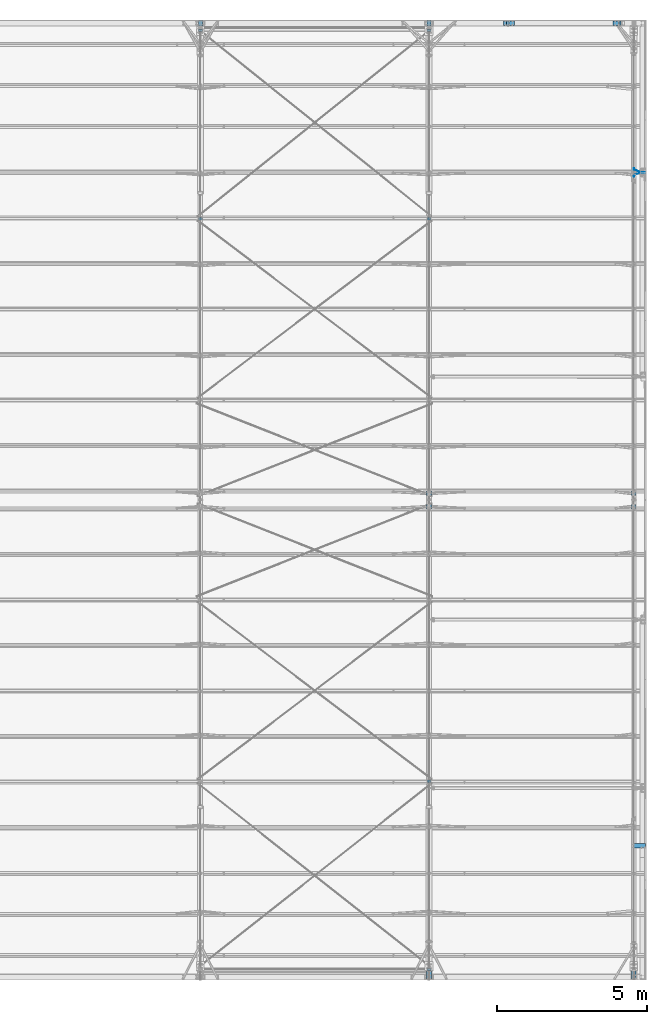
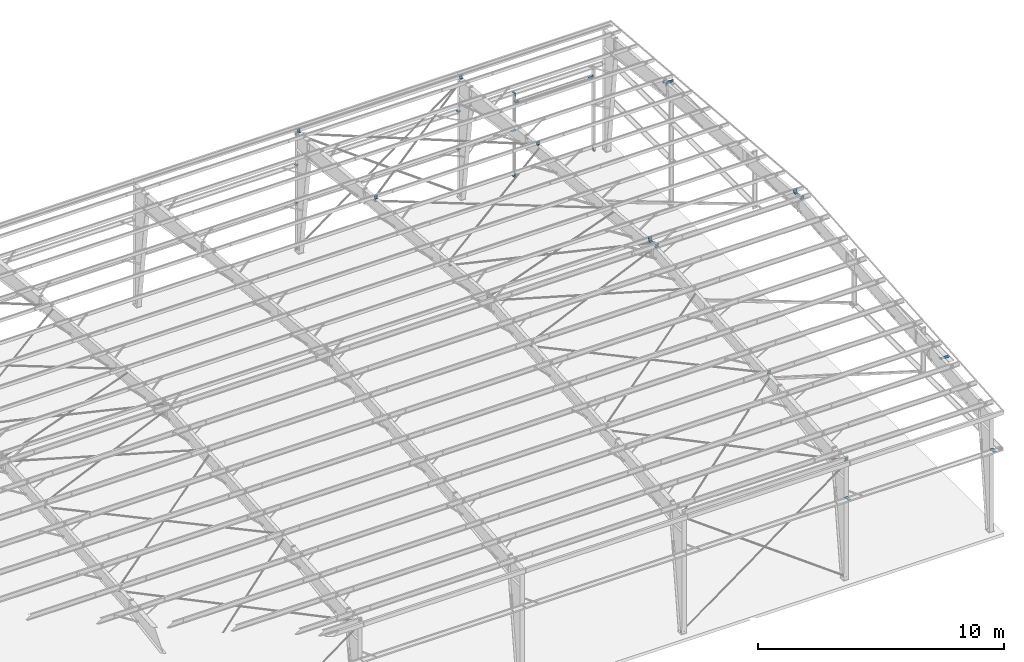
# One storey, part 184 of 185: 25 beams, 25 elements without a shape of their own.
"""IFC2X3 building model written with IfcOpenShell, lengths in millimetres."""

from ifc_helpers import new_model, si_unit, frame, origin_with_axes, place, context, subcontext, project, spatial, faceted_brep, material, type_object, element, aggregate, save


model = new_model("IFC2X3")

# Units and contexts
model_context = context("Model", 3, precision=1e-05, world=origin_with_axes())
body_context = subcontext(model_context, "Body", "Model", "MODEL_VIEW")
ifc_project = project(units=[si_unit("LENGTHUNIT", "METRE", prefix="MILLI"), si_unit("AREAUNIT", "SQUARE_METRE"), si_unit("VOLUMEUNIT", "CUBIC_METRE"), si_unit("MASSUNIT", "GRAM", prefix="KILO"), si_unit("TIMEUNIT", "SECOND"), si_unit("PLANEANGLEUNIT", "RADIAN"), si_unit("SOLIDANGLEUNIT", "STERADIAN"), si_unit("THERMODYNAMICTEMPERATUREUNIT", "DEGREE_CELSIUS"), si_unit("LUMINOUSINTENSITYUNIT", "LUMEN")], contexts=[model_context])

# Site, building, storey
site_placement = place(None, origin_with_axes())
site = spatial("IfcSite", under=ifc_project, at=site_placement, Name="Undefined", CompositionType="ELEMENT")
building_placement = place(site_placement, origin_with_axes())
building = spatial("IfcBuilding", under=site, at=building_placement, Name="Undefined", CompositionType="ELEMENT")
storey_placement = place(building_placement, origin_with_axes())
storey = spatial("IfcBuildingStorey", under=building, at=storey_placement, Name="Undefined", CompositionType="ELEMENT", Elevation=0.0)

# Assembly, beam
assembly_1_placement = place(storey_placement, origin_with_axes())
assembly_1 = element("IfcElementAssembly", 1, at=assembly_1_placement, inside=storey, Name="Steel Assembly", AssemblyPlace="NOTDEFINED", PredefinedType="RIGID_FRAME")
ifc_material = material(Name="STEEL/55")
beam_type_1 = type_object("IfcBeamType", Name="FL1/4\"X5\"", PredefinedType="NOTDEFINED")
beam_1_placement = place(assembly_1_placement, frame((44946.0937, 26918.918412, 6175.51738349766), z_axis=(0.0, 0.0, 1.0), x_axis=(-1.0, 0.0, 0.0)))
beam_1 = element("IfcBeam", 2, at=beam_1_placement, type_object=beam_type_1, material=ifc_material, Name="Special Clip", ObjectType="FL1/4\"X5\"", context=body_context, shape_type="Brep", body=[
    faceted_brep([(0.0, -3.17499999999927, -63.5), (0.0, -3.17499999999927, 63.5), (0.0, 3.17499999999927, 63.5), (0.0, 3.17499999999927, -63.5), (162.336267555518, 3.17499999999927, 63.5), (162.336267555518, 3.17499999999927, -63.5), (163.512496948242, -3.17499999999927, -63.5), (163.512496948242, -3.17499999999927, 63.5), (385.793432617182, 88.899589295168, 63.5), (385.793432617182, 88.899589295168, -63.5), (392.143432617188, 84.5343963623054, -63.5), (392.143432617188, 84.5343963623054, 63.5), (385.793432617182, 138.112506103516, 63.5), (385.793432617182, 138.112506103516, -63.5), (392.143432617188, 138.112506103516, 63.5), (392.143432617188, 138.112506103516, -63.5)], [[[0, 1, 2, 3]], [[3, 2, 4, 5]], [[1, 0, 6, 7]], [[5, 4, 8, 9]], [[7, 6, 10, 11]], [[9, 8, 12, 13]], [[8, 4, 2, 1, 7, 11, 14, 12]], [[11, 10, 15, 14]], [[10, 6, 0, 3, 5, 9, 13, 15]], [[14, 15, 13, 12]]]),
])
aggregate(assembly_1, [beam_1])

assembly_2_placement = place(storey_placement, origin_with_axes())
assembly_2 = element("IfcElementAssembly", 3, at=assembly_2_placement, inside=storey, Name="Steel Assembly", AssemblyPlace="NOTDEFINED", PredefinedType="RIGID_FRAME")
beam_2_placement = place(assembly_2_placement, frame((44946.0937, 26928.684712, 6175.51738349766), z_axis=(0.0, 0.0, 1.0), x_axis=(-1.0, 0.0, 0.0)))
beam_2 = element("IfcBeam", 4, at=beam_2_placement, type_object=beam_type_1, material=ifc_material, Name="Special Clip", ObjectType="FL1/4\"X5\"", context=body_context, shape_type="Brep", body=[
    faceted_brep([(0.0, -3.17499999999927, -63.5), (0.0, -3.17499999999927, 63.5), (0.0, 3.17499999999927, 63.5), (0.0, 3.17499999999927, -63.5), (163.512496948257, 3.17499999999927, 63.5), (163.512496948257, 3.17499999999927, -63.5), (162.333783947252, -3.17499999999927, -63.5), (162.333783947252, -3.17499999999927, 63.5), (392.143432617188, -84.7327987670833, 63.5), (392.143432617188, -84.7327987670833, -63.5), (385.793432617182, -89.0944569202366, -63.5), (385.793432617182, -89.0944569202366, 63.5), (392.143432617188, -138.112506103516, 63.5), (392.143432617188, -138.112506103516, -63.5), (385.793432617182, -138.112506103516, 63.5), (385.793432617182, -138.112506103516, -63.5)], [[[0, 1, 2, 3]], [[3, 2, 4, 5]], [[1, 0, 6, 7]], [[5, 4, 8, 9]], [[7, 6, 10, 11]], [[9, 8, 12, 13]], [[8, 4, 2, 1, 7, 11, 14, 12]], [[11, 10, 15, 14]], [[10, 6, 0, 3, 5, 9, 13, 15]], [[14, 15, 13, 12]]]),
])
aggregate(assembly_2, [beam_2])

assembly_3_placement = place(storey_placement, origin_with_axes())
assembly_3 = element("IfcElementAssembly", 5, at=assembly_3_placement, inside=storey, Name="Steel Assembly", AssemblyPlace="NOTDEFINED", PredefinedType="RIGID_FRAME")
beam_type_2 = type_object("IfcBeamType", Name="PL1/8\"X5 7/8\"", PredefinedType="NOTDEFINED")
beam_3_placement = place(assembly_3_placement, frame((40381.2375, 31902.4, 184.15), z_axis=(0.0, -1.0, 0.0), x_axis=(0.0, 0.0, -1.0)))
beam_3 = element("IfcBeam", 6, at=beam_3_placement, type_object=beam_type_2, material=ifc_material, Name="UNIVERSAL AC-1 CLIP", ObjectType="PL1/8\"X5 7/8\"", context=body_context, shape_type="Brep", body=[
    faceted_brep([(0.0, -1.58749999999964, -74.6125), (0.0, -1.58749999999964, 74.6125), (0.0, 1.58749999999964, 74.6125), (0.0, 1.58749999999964, -74.6125), (184.149993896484, 1.58749999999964, 74.6125), (184.149993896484, 1.58749999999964, -74.6125), (180.974993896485, -1.58749999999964, -74.6125), (180.974993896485, -1.58749999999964, 74.6125), (184.149993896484, -74.6124969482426, 74.6125), (184.149993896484, -74.6124969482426, -74.6125), (180.974993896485, -74.6124969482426, 74.6125), (180.974993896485, -74.6124969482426, -74.6125)], [[[0, 1, 2, 3]], [[3, 2, 4, 5]], [[1, 0, 6, 7]], [[5, 4, 8, 9]], [[4, 2, 1, 7, 10, 8]], [[7, 6, 11, 10]], [[6, 0, 3, 5, 9, 11]], [[10, 11, 9, 8]]]),
])
aggregate(assembly_3, [beam_3])

assembly_4_placement = place(storey_placement, origin_with_axes())
assembly_4 = element("IfcElementAssembly", 7, at=assembly_4_placement, inside=storey, Name="Steel Assembly", AssemblyPlace="NOTDEFINED", PredefinedType="RIGID_FRAME")
beam_4_placement = place(assembly_4_placement, frame((44048.3625, 31902.4, 184.15), z_axis=(0.0, -1.0, 0.0), x_axis=(0.0, 0.0, -1.0)))
beam_4 = element("IfcBeam", 8, at=beam_4_placement, type_object=beam_type_2, material=ifc_material, Name="UNIVERSAL AC-1 CLIP", ObjectType="PL1/8\"X5 7/8\"", context=body_context, shape_type="Brep", body=[
    faceted_brep([(0.0, -1.58749999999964, -74.6125), (0.0, -1.58749999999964, 74.6125), (0.0, 1.58749999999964, 74.6125), (0.0, 1.58749999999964, -74.6125), (180.974993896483, 1.58750000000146, 74.6124999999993), (180.974993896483, 1.58750000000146, -74.6124999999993), (184.149993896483, -1.58750000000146, -74.6124999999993), (184.149993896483, -1.58750000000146, 74.6124999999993), (180.974993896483, 74.6124969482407, 74.6124999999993), (180.974993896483, 74.6124969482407, -74.6124999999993), (184.149993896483, 74.6124969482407, 74.6124999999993), (184.149993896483, 74.6124969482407, -74.6124999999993)], [[[0, 1, 2, 3]], [[3, 2, 4, 5]], [[1, 0, 6, 7]], [[5, 4, 8, 9]], [[4, 2, 1, 7, 10, 8]], [[7, 6, 11, 10]], [[6, 0, 3, 5, 9, 11]], [[10, 11, 9, 8]]]),
])
aggregate(assembly_4, [beam_4])

assembly_5_placement = place(storey_placement, origin_with_axes())
assembly_5 = element("IfcElementAssembly", 9, at=assembly_5_placement, inside=storey, Name="Steel Assembly", AssemblyPlace="NOTDEFINED", PredefinedType="RIGID_FRAME")
beam_5_placement = place(assembly_5_placement, frame((43859.45, 31902.4, 3662.36750030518), z_axis=(0.0, 1.0, 0.0), x_axis=(1.0, 0.0, 0.0)))
beam_5 = element("IfcBeam", 10, at=beam_5_placement, type_object=beam_type_2, material=ifc_material, Name="UNIVERSAL AC-1 CLIP", ObjectType="PL1/8\"X5 7/8\"", context=body_context, shape_type="Brep", body=[
    faceted_brep([(0.0, -1.58749999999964, -74.6125), (0.0, -1.58749999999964, 74.6125), (0.0, 1.58749999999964, 74.6125), (0.0, 1.58749999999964, -74.6125), (184.149993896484, 1.58749999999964, 74.6125), (184.149993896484, 1.58749999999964, -74.6125), (180.974993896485, -1.58749999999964, -74.6125), (180.974993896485, -1.58749999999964, 74.6125), (184.149993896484, -74.6124969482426, 74.6125), (184.149993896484, -74.6124969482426, -74.6125), (180.974993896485, -74.6124969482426, 74.6125), (180.974993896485, -74.6124969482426, -74.6125)], [[[0, 1, 2, 3]], [[3, 2, 4, 5]], [[1, 0, 6, 7]], [[5, 4, 8, 9]], [[4, 2, 1, 7, 10, 8]], [[7, 6, 11, 10]], [[6, 0, 3, 5, 9, 11]], [[10, 11, 9, 8]]]),
])
aggregate(assembly_5, [beam_5])

assembly_6_placement = place(storey_placement, origin_with_axes())
assembly_6 = element("IfcElementAssembly", 11, at=assembly_6_placement, inside=storey, Name="Steel Assembly", AssemblyPlace="NOTDEFINED", PredefinedType="RIGID_FRAME")
beam_6_placement = place(assembly_6_placement, frame((40570.15, 31902.4, 3662.36750030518), z_axis=(0.0, -1.0, 0.0), x_axis=(-1.0, 0.0, 0.0)))
beam_6 = element("IfcBeam", 12, at=beam_6_placement, type_object=beam_type_2, material=ifc_material, Name="UNIVERSAL AC-1 CLIP", ObjectType="PL1/8\"X5 7/8\"", context=body_context, shape_type="Brep", body=[
    faceted_brep([(0.0, -1.58749999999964, -74.6125), (0.0, -1.58749999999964, 74.6125), (0.0, 1.58749999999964, 74.6125), (0.0, 1.58749999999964, -74.6125), (184.149993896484, 1.58749999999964, 74.6125), (184.149993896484, 1.58749999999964, -74.6125), (180.974993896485, -1.58749999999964, -74.6125), (180.974993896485, -1.58749999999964, 74.6125), (184.149993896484, -74.6124969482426, 74.6125), (184.149993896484, -74.6124969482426, -74.6125), (180.974993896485, -74.6124969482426, 74.6125), (180.974993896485, -74.6124969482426, -74.6125)], [[[0, 1, 2, 3]], [[3, 2, 4, 5]], [[1, 0, 6, 7]], [[5, 4, 8, 9]], [[4, 2, 1, 7, 10, 8]], [[7, 6, 11, 10]], [[6, 0, 3, 5, 9, 11]], [[10, 11, 9, 8]]]),
])
aggregate(assembly_6, [beam_6])

assembly_7_placement = place(storey_placement, origin_with_axes())
assembly_7 = element("IfcElementAssembly", 13, at=assembly_7_placement, inside=storey, Name="Steel Assembly", AssemblyPlace="NOTDEFINED", PredefinedType="RIGID_FRAME")
beam_7_placement = place(assembly_7_placement, frame((40381.2324996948, 31902.4, 3979.85999996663), z_axis=(0.0, 1.0, 0.0), x_axis=(0.0, 0.0, 1.0)))
beam_7 = element("IfcBeam", 14, at=beam_7_placement, type_object=beam_type_2, material=ifc_material, Name="UNIVERSAL AC-1 CLIP", ObjectType="PL1/8\"X5 7/8\"", context=body_context, shape_type="Brep", body=[
    faceted_brep([(0.0, -1.58749999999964, -74.6125), (0.0, -1.58749999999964, 74.6125), (0.0, 1.58749999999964, 74.6125), (0.0, 1.58749999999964, -74.6125), (184.149993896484, 1.58749999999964, 74.6125), (184.149993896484, 1.58749999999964, -74.6125), (180.974993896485, -1.58749999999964, -74.6125), (180.974993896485, -1.58749999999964, 74.6125), (184.149993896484, -74.6124969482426, 74.6125), (184.149993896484, -74.6124969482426, -74.6125), (180.974993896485, -74.6124969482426, 74.6125), (180.974993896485, -74.6124969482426, -74.6125)], [[[0, 1, 2, 3]], [[3, 2, 4, 5]], [[1, 0, 6, 7]], [[5, 4, 8, 9]], [[4, 2, 1, 7, 10, 8]], [[7, 6, 11, 10]], [[6, 0, 3, 5, 9, 11]], [[10, 11, 9, 8]]]),
])
aggregate(assembly_7, [beam_7])

assembly_8_placement = place(storey_placement, origin_with_axes())
assembly_8 = element("IfcElementAssembly", 15, at=assembly_8_placement, inside=storey, Name="Steel Assembly", AssemblyPlace="NOTDEFINED", PredefinedType="RIGID_FRAME")
beam_8_placement = place(assembly_8_placement, frame((40198.6699996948, 31902.4, 2289.17750003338), z_axis=(0.0, 1.0, 0.0), x_axis=(1.0, 0.0, 0.0)))
beam_8 = element("IfcBeam", 16, at=beam_8_placement, type_object=beam_type_2, material=ifc_material, Name="UNIVERSAL AC-1 CLIP", ObjectType="PL1/8\"X5 7/8\"", context=body_context, shape_type="Brep", body=[
    faceted_brep([(0.0, -1.58749999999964, -74.6125), (0.0, -1.58749999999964, 74.6125), (0.0, 1.58749999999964, 74.6125), (0.0, 1.58749999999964, -74.6125), (184.149993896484, 1.58749999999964, 74.6125), (184.149993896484, 1.58749999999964, -74.6125), (180.974993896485, -1.58749999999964, -74.6125), (180.974993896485, -1.58749999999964, 74.6125), (184.149993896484, -74.6124969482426, 74.6125), (184.149993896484, -74.6124969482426, -74.6125), (180.974993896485, -74.6124969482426, 74.6125), (180.974993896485, -74.6124969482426, -74.6125)], [[[0, 1, 2, 3]], [[3, 2, 4, 5]], [[1, 0, 6, 7]], [[5, 4, 8, 9]], [[4, 2, 1, 7, 10, 8]], [[7, 6, 11, 10]], [[6, 0, 3, 5, 9, 11]], [[10, 11, 9, 8]]]),
])
aggregate(assembly_8, [beam_8])

assembly_9_placement = place(storey_placement, origin_with_axes())
assembly_9 = element("IfcElementAssembly", 17, at=assembly_9_placement, inside=storey, Name="Steel Assembly", AssemblyPlace="NOTDEFINED", PredefinedType="RIGID_FRAME")
beam_type_3 = type_object("IfcBeamType", Name="FL3/16\"X5\"", PredefinedType="NOTDEFINED")
beam_9_placement = place(assembly_9_placement, frame((37719.0, 31803.18125, 2355.85), z_axis=(-1.0, 0.0, 0.0), x_axis=(0.0, 0.0, -1.0)))
beam_9 = element("IfcBeam", 18, at=beam_9_placement, type_object=beam_type_3, material=ifc_material, Name="UNIVERSAL AC-1 CLIP", ObjectType="FL3/16\"X5\"", context=body_context, shape_type="Brep", body=[
    faceted_brep([(0.0, -2.38124999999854, -63.5), (0.0, -2.38124999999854, 63.5), (0.0, 2.38124999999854, 63.5), (0.0, 2.38124999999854, -63.5), (69.8499984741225, 2.38124999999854, 63.5), (69.8499984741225, 2.38124999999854, -63.5), (65.0874984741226, -2.38124999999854, -63.5), (65.0874984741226, -2.38124999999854, 63.5), (69.8499984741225, -181.768743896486, 63.5), (69.8499984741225, -181.768743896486, -63.5), (65.0874984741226, -181.768743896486, 63.5), (65.0874984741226, -181.768743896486, -63.5)], [[[0, 1, 2, 3]], [[3, 2, 4, 5]], [[1, 0, 6, 7]], [[5, 4, 8, 9]], [[4, 2, 1, 7, 10, 8]], [[7, 6, 11, 10]], [[6, 0, 3, 5, 9, 11]], [[10, 11, 9, 8]]]),
])
aggregate(assembly_9, [beam_9])

assembly_10_placement = place(storey_placement, origin_with_axes())
assembly_10 = element("IfcElementAssembly", 19, at=assembly_10_placement, inside=storey, Name="Steel Assembly", AssemblyPlace="NOTDEFINED", PredefinedType="RIGID_FRAME")
beam_10_placement = place(assembly_10_placement, frame((30099.0000000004, 25331.875221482, 6450.49431404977), z_axis=(-1.0, 0.0, 0.0), x_axis=(0.0, 0.996545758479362, -0.0830454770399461)))
beam_10 = element("IfcBeam", 20, at=beam_10_placement, type_object=beam_type_3, material=ifc_material, Name="UNIVERSAL AC-1 CLIP", ObjectType="FL3/16\"X5\"", context=body_context, shape_type="Brep", body=[
    faceted_brep([(1.03973434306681e-08, -2.3799999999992, -63.5), (1.03973434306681e-08, -2.3799999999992, 63.5), (-1.0393705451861e-08, 2.38000000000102, 63.5), (-1.0393705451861e-08, 2.38000000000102, -63.5), (69.8499976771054, 2.38000030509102, 63.5), (69.8499976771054, 2.38000030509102, -63.5), (65.0899976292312, -2.37999971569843, -63.5), (65.0899976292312, -2.37999971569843, 63.5), (69.8499958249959, -181.770005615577, 63.5), (69.8499958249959, -181.770005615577, -63.5), (65.0899958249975, -181.770005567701, 63.5), (65.0899958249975, -181.770005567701, -63.5)], [[[0, 1, 2, 3]], [[3, 2, 4, 5]], [[1, 0, 6, 7]], [[5, 4, 8, 9]], [[4, 2, 1, 7, 10, 8]], [[7, 6, 11, 10]], [[6, 0, 3, 5, 9, 11]], [[10, 11, 9, 8]]]),
])
aggregate(assembly_10, [beam_10])

assembly_11_placement = place(storey_placement, origin_with_axes())
assembly_11 = element("IfcElementAssembly", 21, at=assembly_11_placement, inside=storey, Name="Steel Assembly", AssemblyPlace="NOTDEFINED", PredefinedType="RIGID_FRAME")
beam_11_placement = place(assembly_11_placement, frame((37719.0000000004, 25331.875221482, 6450.4943140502), z_axis=(-1.0, 0.0, 0.0), x_axis=(0.0, 0.996545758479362, -0.0830454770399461)))
beam_11 = element("IfcBeam", 22, at=beam_11_placement, type_object=beam_type_3, material=ifc_material, Name="UNIVERSAL AC-1 CLIP", ObjectType="FL3/16\"X5\"", context=body_context, shape_type="Brep", body=[
    faceted_brep([(1.03973434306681e-08, -2.3799999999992, -63.5), (1.03973434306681e-08, -2.3799999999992, 63.5), (-1.0393705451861e-08, 2.38000000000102, 63.5), (-1.0393705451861e-08, 2.38000000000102, -63.5), (69.8499976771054, 2.38000030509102, 63.5), (69.8499976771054, 2.38000030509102, -63.5), (65.0899976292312, -2.37999971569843, -63.5), (65.0899976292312, -2.37999971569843, 63.5), (69.8499958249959, -181.770005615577, 63.5), (69.8499958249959, -181.770005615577, -63.5), (65.0899958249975, -181.770005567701, 63.5), (65.0899958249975, -181.770005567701, -63.5)], [[[0, 1, 2, 3]], [[3, 2, 4, 5]], [[1, 0, 6, 7]], [[5, 4, 8, 9]], [[4, 2, 1, 7, 10, 8]], [[7, 6, 11, 10]], [[6, 0, 3, 5, 9, 11]], [[10, 11, 9, 8]]]),
])
aggregate(assembly_11, [beam_11])

assembly_12_placement = place(storey_placement, origin_with_axes())
assembly_12 = element("IfcElementAssembly", 23, at=assembly_12_placement, inside=storey, Name="Steel Assembly", AssemblyPlace="NOTDEFINED", PredefinedType="RIGID_FRAME")
beam_12_placement = place(assembly_12_placement, frame((37719.0, 6672.12477846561, 6450.49431404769), z_axis=(1.0, 0.0, 0.0), x_axis=(0.0, -0.996545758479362, -0.0830454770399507)))
beam_12 = element("IfcBeam", 24, at=beam_12_placement, type_object=beam_type_3, material=ifc_material, Name="UNIVERSAL AC-1 CLIP", ObjectType="FL3/16\"X5\"", context=body_context, shape_type="Brep", body=[
    faceted_brep([(1.03973434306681e-08, -2.3799999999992, -63.5), (1.03973434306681e-08, -2.3799999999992, 63.5), (-1.0393705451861e-08, 2.38000000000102, 63.5), (-1.0393705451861e-08, 2.38000000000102, -63.5), (69.8499976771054, 2.38000030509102, 63.5), (69.8499976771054, 2.38000030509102, -63.5), (65.0899976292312, -2.37999971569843, -63.5), (65.0899976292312, -2.37999971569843, 63.5), (69.8499958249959, -181.770005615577, 63.5), (69.8499958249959, -181.770005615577, -63.5), (65.0899958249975, -181.770005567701, 63.5), (65.0899958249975, -181.770005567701, -63.5)], [[[0, 1, 2, 3]], [[3, 2, 4, 5]], [[1, 0, 6, 7]], [[5, 4, 8, 9]], [[4, 2, 1, 7, 10, 8]], [[7, 6, 11, 10]], [[6, 0, 3, 5, 9, 11]], [[10, 11, 9, 8]]]),
])
aggregate(assembly_12, [beam_12])

assembly_13_placement = place(storey_placement, origin_with_axes())
assembly_13 = element("IfcElementAssembly", 25, at=assembly_13_placement, inside=storey, Name="Steel Assembly", AssemblyPlace="NOTDEFINED", PredefinedType="RIGID_FRAME")
beam_13_placement = place(assembly_13_placement, frame((30099.0, 31803.18125, 4235.45), z_axis=(-1.0, 0.0, 0.0), x_axis=(0.0, 0.0, -1.0)))
beam_13 = element("IfcBeam", 26, at=beam_13_placement, type_object=beam_type_3, material=ifc_material, Name="UNIVERSAL AC-1 CLIP", ObjectType="FL3/16\"X5\"", context=body_context, shape_type="Brep", body=[
    faceted_brep([(0.0, -2.38124999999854, -63.5), (0.0, -2.38124999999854, 63.5), (0.0, 2.38124999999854, 63.5), (0.0, 2.38124999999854, -63.5), (69.8499984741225, 2.38124999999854, 63.5), (69.8499984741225, 2.38124999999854, -63.5), (65.0874984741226, -2.38124999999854, -63.5), (65.0874984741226, -2.38124999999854, 63.5), (69.8499984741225, -181.768743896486, 63.5), (69.8499984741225, -181.768743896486, -63.5), (65.0874984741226, -181.768743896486, 63.5), (65.0874984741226, -181.768743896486, -63.5)], [[[0, 1, 2, 3]], [[3, 2, 4, 5]], [[1, 0, 6, 7]], [[5, 4, 8, 9]], [[4, 2, 1, 7, 10, 8]], [[7, 6, 11, 10]], [[6, 0, 3, 5, 9, 11]], [[10, 11, 9, 8]]]),
])
aggregate(assembly_13, [beam_13])

assembly_14_placement = place(storey_placement, origin_with_axes())
assembly_14 = element("IfcElementAssembly", 27, at=assembly_14_placement, inside=storey, Name="Steel Assembly", AssemblyPlace="NOTDEFINED", PredefinedType="RIGID_FRAME")
beam_14_placement = place(assembly_14_placement, frame((30099.0, 31803.18125, 2355.85), z_axis=(-1.0, 0.0, 0.0), x_axis=(0.0, 0.0, -1.0)))
beam_14 = element("IfcBeam", 28, at=beam_14_placement, type_object=beam_type_3, material=ifc_material, Name="UNIVERSAL AC-1 CLIP", ObjectType="FL3/16\"X5\"", context=body_context, shape_type="Brep", body=[
    faceted_brep([(0.0, -2.38124999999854, -63.5), (0.0, -2.38124999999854, 63.5), (0.0, 2.38124999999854, 63.5), (0.0, 2.38124999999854, -63.5), (69.8499984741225, 2.38124999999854, 63.5), (69.8499984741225, 2.38124999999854, -63.5), (65.0874984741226, -2.38124999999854, -63.5), (65.0874984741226, -2.38124999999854, 63.5), (69.8499984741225, -181.768743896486, 63.5), (69.8499984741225, -181.768743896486, -63.5), (65.0874984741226, -181.768743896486, 63.5), (65.0874984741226, -181.768743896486, -63.5)], [[[0, 1, 2, 3]], [[3, 2, 4, 5]], [[1, 0, 6, 7]], [[5, 4, 8, 9]], [[4, 2, 1, 7, 10, 8]], [[7, 6, 11, 10]], [[6, 0, 3, 5, 9, 11]], [[10, 11, 9, 8]]]),
])
aggregate(assembly_14, [beam_14])

assembly_15_placement = place(storey_placement, origin_with_axes())
assembly_15 = element("IfcElementAssembly", 29, at=assembly_15_placement, inside=storey, Name="Steel Assembly", AssemblyPlace="NOTDEFINED", PredefinedType="RIGID_FRAME")
beam_15_placement = place(assembly_15_placement, frame((37719.0, 31803.18125, 4235.45), z_axis=(-1.0, 0.0, 0.0), x_axis=(0.0, 0.0, -1.0)))
beam_15 = element("IfcBeam", 30, at=beam_15_placement, type_object=beam_type_3, material=ifc_material, Name="UNIVERSAL AC-1 CLIP", ObjectType="FL3/16\"X5\"", context=body_context, shape_type="Brep", body=[
    faceted_brep([(0.0, -2.38124999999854, -63.5), (0.0, -2.38124999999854, 63.5), (0.0, 2.38124999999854, 63.5), (0.0, 2.38124999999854, -63.5), (69.8499984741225, 2.38124999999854, 63.5), (69.8499984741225, 2.38124999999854, -63.5), (65.0874984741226, -2.38124999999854, -63.5), (65.0874984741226, -2.38124999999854, 63.5), (69.8499984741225, -181.768743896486, 63.5), (69.8499984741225, -181.768743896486, -63.5), (65.0874984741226, -181.768743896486, 63.5), (65.0874984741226, -181.768743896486, -63.5)], [[[0, 1, 2, 3]], [[3, 2, 4, 5]], [[1, 0, 6, 7]], [[5, 4, 8, 9]], [[4, 2, 1, 7, 10, 8]], [[7, 6, 11, 10]], [[6, 0, 3, 5, 9, 11]], [[10, 11, 9, 8]]]),
])
aggregate(assembly_15, [beam_15])

assembly_16_placement = place(storey_placement, origin_with_axes())
assembly_16 = element("IfcElementAssembly", 31, at=assembly_16_placement, inside=storey, Name="Steel Assembly", AssemblyPlace="NOTDEFINED", PredefinedType="RIGID_FRAME")
beam_16_placement = place(assembly_16_placement, frame((37719.0000000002, 31614.0623109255, 5926.97872220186), z_axis=(-1.0, 0.0, 0.0), x_axis=(0.0, 0.996545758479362, -0.0830454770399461)))
beam_16 = element("IfcBeam", 32, at=beam_16_placement, type_object=beam_type_3, material=ifc_material, Name="UNIVERSAL AC-1 CLIP", ObjectType="FL3/16\"X5\"", context=body_context, shape_type="Brep", body=[
    faceted_brep([(1.03973434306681e-08, -2.3799999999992, -63.5), (1.03973434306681e-08, -2.3799999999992, 63.5), (-1.0393705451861e-08, 2.38000000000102, 63.5), (-1.0393705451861e-08, 2.38000000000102, -63.5), (69.8499976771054, 2.38000030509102, 63.5), (69.8499976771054, 2.38000030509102, -63.5), (65.0899976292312, -2.37999971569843, -63.5), (65.0899976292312, -2.37999971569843, 63.5), (69.8499958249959, -181.770005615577, 63.5), (69.8499958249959, -181.770005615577, -63.5), (65.0899958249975, -181.770005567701, 63.5), (65.0899958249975, -181.770005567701, -63.5)], [[[0, 1, 2, 3]], [[3, 2, 4, 5]], [[1, 0, 6, 7]], [[5, 4, 8, 9]], [[4, 2, 1, 7, 10, 8]], [[7, 6, 11, 10]], [[6, 0, 3, 5, 9, 11]], [[10, 11, 9, 8]]]),
])
aggregate(assembly_16, [beam_16])

assembly_17_placement = place(storey_placement, origin_with_axes())
assembly_17 = element("IfcElementAssembly", 33, at=assembly_17_placement, inside=storey, Name="Steel Assembly", AssemblyPlace="NOTDEFINED", PredefinedType="RIGID_FRAME")
beam_17_placement = place(assembly_17_placement, frame((30098.9999999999, 31614.0623109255, 5926.97872220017), z_axis=(1.0, 0.0, 0.0), x_axis=(0.0, 0.996545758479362, -0.0830454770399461)))
beam_17 = element("IfcBeam", 34, at=beam_17_placement, type_object=beam_type_3, material=ifc_material, Name="UNIVERSAL AC-1 CLIP", ObjectType="FL3/16\"X5\"", context=body_context, shape_type="Brep", body=[
    faceted_brep([(1.03973434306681e-08, -2.3799999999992, -63.5), (1.03973434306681e-08, -2.3799999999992, 63.5), (-1.0393705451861e-08, 2.38000000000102, 63.5), (-1.0393705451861e-08, 2.38000000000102, -63.5), (65.0899976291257, 2.37999971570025, 63.5), (65.0899976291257, 2.37999971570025, -63.5), (69.8499976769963, -2.38000030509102, -63.5), (69.8499976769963, -2.38000030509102, 63.5), (65.0899958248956, 181.77000556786, 63.5), (65.0899958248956, 181.77000556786, -63.5), (69.849995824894, 181.770005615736, 63.5), (69.849995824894, 181.770005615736, -63.5)], [[[0, 1, 2, 3]], [[3, 2, 4, 5]], [[1, 0, 6, 7]], [[5, 4, 8, 9]], [[4, 2, 1, 7, 10, 8]], [[7, 6, 11, 10]], [[6, 0, 3, 5, 9, 11]], [[10, 11, 9, 8]]]),
])
aggregate(assembly_17, [beam_17])

assembly_18_placement = place(storey_placement, origin_with_axes())
assembly_18 = element("IfcElementAssembly", 35, at=assembly_18_placement, inside=storey, Name="Steel Assembly", AssemblyPlace="NOTDEFINED", PredefinedType="RIGID_FRAME")
beam_18_placement = place(assembly_18_placement, frame((37719.0000000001, 389.937689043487, 5926.9787221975), z_axis=(-1.0, 0.0, 0.0), x_axis=(0.0, -0.996545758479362, -0.0830454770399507)))
beam_18 = element("IfcBeam", 36, at=beam_18_placement, type_object=beam_type_3, material=ifc_material, Name="UNIVERSAL AC-1 CLIP", ObjectType="FL3/16\"X5\"", context=body_context, shape_type="Brep", body=[
    faceted_brep([(1.03973434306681e-08, -2.3799999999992, -63.5), (1.03973434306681e-08, -2.3799999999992, 63.5), (-1.0393705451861e-08, 2.38000000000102, 63.5), (-1.0393705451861e-08, 2.38000000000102, -63.5), (65.0899976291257, 2.37999971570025, 63.5), (65.0899976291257, 2.37999971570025, -63.5), (69.8499976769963, -2.38000030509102, -63.5), (69.8499976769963, -2.38000030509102, 63.5), (65.0899958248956, 181.77000556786, 63.5), (65.0899958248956, 181.77000556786, -63.5), (69.849995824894, 181.770005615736, 63.5), (69.849995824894, 181.770005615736, -63.5)], [[[0, 1, 2, 3]], [[3, 2, 4, 5]], [[1, 0, 6, 7]], [[5, 4, 8, 9]], [[4, 2, 1, 7, 10, 8]], [[7, 6, 11, 10]], [[6, 0, 3, 5, 9, 11]], [[10, 11, 9, 8]]]),
])
aggregate(assembly_18, [beam_18])

assembly_19_placement = place(storey_placement, origin_with_axes())
assembly_19 = element("IfcElementAssembly", 37, at=assembly_19_placement, inside=storey, Name="Steel Assembly", AssemblyPlace="NOTDEFINED", PredefinedType="RIGID_FRAME")
beam_type_4 = type_object("IfcBeamType", Name="FL1/4\"X6\"", PredefinedType="NOTDEFINED")
beam_19_placement = place(assembly_19_placement, frame((44551.6, 301.625, 4089.4), z_axis=(-1.0, 0.0, 0.0), x_axis=(0.0, 0.0, 1.0)))
beam_19 = element("IfcBeam", 38, at=beam_19_placement, type_object=beam_type_4, material=ifc_material, Name="8 SECONDARY BYPASS", ObjectType="FL1/4\"X6\"", context=body_context, shape_type="Brep", body=[
    faceted_brep([(1.38752511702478e-08, -3.17500000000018, -76.1999999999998), (1.38752511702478e-08, -3.17500000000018, 76.1999999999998), (-1.38788891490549e-08, 3.17499999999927, 76.1999999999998), (-1.38788891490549e-08, 3.17499999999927, -76.1999999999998), (76.1999969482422, 3.17500000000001, 76.1999999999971), (76.1999969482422, 3.17500000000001, -76.1999999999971), (69.8499969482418, -3.17500000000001, -76.1999999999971), (69.8499969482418, -3.17500000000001, 76.1999999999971), (76.1999969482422, -276.224993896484, 76.1999999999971), (76.1999969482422, -276.224993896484, -76.1999999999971), (69.8499969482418, -276.224993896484, 76.1999999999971), (69.8499969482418, -276.224993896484, -76.1999999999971)], [[[0, 1, 2, 3]], [[3, 2, 4, 5]], [[1, 0, 6, 7]], [[5, 4, 8, 9]], [[4, 2, 1, 7, 10, 8]], [[7, 6, 11, 10]], [[6, 0, 3, 5, 9, 11]], [[10, 11, 9, 8]]]),
])
aggregate(assembly_19, [beam_19])

assembly_20_placement = place(storey_placement, origin_with_axes())
assembly_20 = element("IfcElementAssembly", 39, at=assembly_20_placement, inside=storey, Name="Steel Assembly", AssemblyPlace="NOTDEFINED", PredefinedType="RIGID_FRAME")
beam_20_placement = place(assembly_20_placement, frame((37719.0, 301.625, 4089.4), z_axis=(-1.0, 0.0, 0.0), x_axis=(0.0, 0.0, 1.0)))
beam_20 = element("IfcBeam", 40, at=beam_20_placement, type_object=beam_type_4, material=ifc_material, Name="8 SECONDARY BYPASS", ObjectType="FL1/4\"X6\"", context=body_context, shape_type="Brep", body=[
    faceted_brep([(1.38752511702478e-08, -3.17500000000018, -76.1999999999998), (1.38752511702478e-08, -3.17500000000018, 76.1999999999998), (-1.38788891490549e-08, 3.17499999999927, 76.1999999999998), (-1.38788891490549e-08, 3.17499999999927, -76.1999999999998), (76.1999969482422, 3.17500000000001, 76.1999999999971), (76.1999969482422, 3.17500000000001, -76.1999999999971), (69.8499969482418, -3.17500000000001, -76.1999999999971), (69.8499969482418, -3.17500000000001, 76.1999999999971), (76.1999969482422, -276.224993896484, 76.1999999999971), (76.1999969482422, -276.224993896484, -76.1999999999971), (69.8499969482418, -276.224993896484, 76.1999999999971), (69.8499969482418, -276.224993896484, -76.1999999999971)], [[[0, 1, 2, 3]], [[3, 2, 4, 5]], [[1, 0, 6, 7]], [[5, 4, 8, 9]], [[4, 2, 1, 7, 10, 8]], [[7, 6, 11, 10]], [[6, 0, 3, 5, 9, 11]], [[10, 11, 9, 8]]]),
])
aggregate(assembly_20, [beam_20])

assembly_21_placement = place(storey_placement, origin_with_axes())
assembly_21 = element("IfcElementAssembly", 41, at=assembly_21_placement, inside=storey, Name="Steel Assembly", AssemblyPlace="NOTDEFINED", PredefinedType="RIGID_FRAME")
beam_21_placement = place(assembly_21_placement, frame((44551.6000000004, 16149.9181081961, 7216.45516403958), z_axis=(-1.0, 0.0, 0.0), x_axis=(0.0, 0.996545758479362, -0.0830454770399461)))
beam_21 = element("IfcBeam", 42, at=beam_21_placement, type_object=beam_type_4, material=ifc_material, Name="ANTI-ROLL CL 8 OR 9.5", ObjectType="FL1/4\"X6\"", context=body_context, shape_type="Brep", body=[
    faceted_brep([(1.38752511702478e-08, -3.17500000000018, -76.1999999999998), (1.38752511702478e-08, -3.17500000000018, 76.1999999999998), (-1.38788891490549e-08, 3.17499999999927, 76.1999999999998), (-1.38788891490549e-08, 3.17499999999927, -76.1999999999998), (139.699995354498, 3.17500061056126, 76.1999999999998), (139.699995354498, 3.17500061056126, -76.1999999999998), (133.34999539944, -3.17499941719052, -76.1999999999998), (133.34999539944, -3.17499941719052, 76.1999999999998), (139.699996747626, -193.674993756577, 76.1999999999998), (139.699996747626, -193.674993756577, -76.1999999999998), (133.349996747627, -193.674993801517, 76.1999999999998), (133.349996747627, -193.674993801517, -76.1999999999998)], [[[0, 1, 2, 3]], [[3, 2, 4, 5]], [[1, 0, 6, 7]], [[5, 4, 8, 9]], [[4, 2, 1, 7, 10, 8]], [[7, 6, 11, 10]], [[6, 0, 3, 5, 9, 11]], [[10, 11, 9, 8]]]),
])
aggregate(assembly_21, [beam_21])

assembly_22_placement = place(storey_placement, origin_with_axes())
assembly_22 = element("IfcElementAssembly", 43, at=assembly_22_placement, inside=storey, Name="Steel Assembly", AssemblyPlace="NOTDEFINED", PredefinedType="RIGID_FRAME")
beam_22_placement = place(assembly_22_placement, frame((44551.6, 15854.0818917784, 7216.45516401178), z_axis=(-1.0, 0.0, 0.0), x_axis=(0.0, -0.996545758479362, -0.0830454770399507)))
beam_22 = element("IfcBeam", 44, at=beam_22_placement, type_object=beam_type_4, material=ifc_material, Name="ANTI-ROLL CL 8 OR 9.5", ObjectType="FL1/4\"X6\"", context=body_context, shape_type="Brep", body=[
    faceted_brep([(1.38752511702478e-08, -3.17500000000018, -76.1999999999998), (1.38752511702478e-08, -3.17500000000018, 76.1999999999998), (-1.38788891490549e-08, 3.17499999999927, 76.1999999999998), (-1.38788891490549e-08, 3.17499999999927, -76.1999999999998), (133.349995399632, 3.17499941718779, 76.2), (133.349995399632, 3.17499941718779, -76.2), (139.699995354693, -3.17500061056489, -76.2), (139.699995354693, -3.17500061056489, 76.2), (133.349996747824, 193.674993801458, 76.2), (133.349996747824, 193.674993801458, -76.2), (139.699996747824, 193.674993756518, 76.2), (139.699996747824, 193.674993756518, -76.2)], [[[0, 1, 2, 3]], [[3, 2, 4, 5]], [[1, 0, 6, 7]], [[5, 4, 8, 9]], [[4, 2, 1, 7, 10, 8]], [[7, 6, 11, 10]], [[6, 0, 3, 5, 9, 11]], [[10, 11, 9, 8]]]),
])
aggregate(assembly_22, [beam_22])

assembly_23_placement = place(storey_placement, origin_with_axes())
assembly_23 = element("IfcElementAssembly", 45, at=assembly_23_placement, inside=storey, Name="Steel Assembly", AssemblyPlace="NOTDEFINED", PredefinedType="RIGID_FRAME")
beam_23_placement = place(assembly_23_placement, frame((37719.0, 15854.0818917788, 7216.45516401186), z_axis=(1.0, 0.0, 0.0), x_axis=(0.0, -0.996545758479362, -0.0830454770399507)))
beam_23 = element("IfcBeam", 46, at=beam_23_placement, type_object=beam_type_4, material=ifc_material, Name="ANTI-ROLL CL 8 OR 9.5", ObjectType="FL1/4\"X6\"", context=body_context, shape_type="Brep", body=[
    faceted_brep([(1.38752511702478e-08, -3.17500000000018, -76.1999999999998), (1.38752511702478e-08, -3.17500000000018, 76.1999999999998), (-1.38788891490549e-08, 3.17499999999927, 76.1999999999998), (-1.38788891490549e-08, 3.17499999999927, -76.1999999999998), (139.699995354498, 3.17500061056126, 76.1999999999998), (139.699995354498, 3.17500061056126, -76.1999999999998), (133.34999539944, -3.17499941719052, -76.1999999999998), (133.34999539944, -3.17499941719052, 76.1999999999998), (139.699996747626, -193.674993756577, 76.1999999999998), (139.699996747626, -193.674993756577, -76.1999999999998), (133.349996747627, -193.674993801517, 76.1999999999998), (133.349996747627, -193.674993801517, -76.1999999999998)], [[[0, 1, 2, 3]], [[3, 2, 4, 5]], [[1, 0, 6, 7]], [[5, 4, 8, 9]], [[4, 2, 1, 7, 10, 8]], [[7, 6, 11, 10]], [[6, 0, 3, 5, 9, 11]], [[10, 11, 9, 8]]]),
])
aggregate(assembly_23, [beam_23])

assembly_24_placement = place(storey_placement, origin_with_axes())
assembly_24 = element("IfcElementAssembly", 47, at=assembly_24_placement, inside=storey, Name="Steel Assembly", AssemblyPlace="NOTDEFINED", PredefinedType="RIGID_FRAME")
beam_24_placement = place(assembly_24_placement, frame((37719.0000000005, 16149.9181081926, 7216.45516403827), z_axis=(-1.0, 0.0, 0.0), x_axis=(0.0, 0.996545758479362, -0.0830454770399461)))
beam_24 = element("IfcBeam", 48, at=beam_24_placement, type_object=beam_type_4, material=ifc_material, Name="ANTI-ROLL CL 8 OR 9.5", ObjectType="FL1/4\"X6\"", context=body_context, shape_type="Brep", body=[
    faceted_brep([(1.38752511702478e-08, -3.17500000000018, -76.1999999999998), (1.38752511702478e-08, -3.17500000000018, 76.1999999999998), (-1.38788891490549e-08, 3.17499999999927, 76.1999999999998), (-1.38788891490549e-08, 3.17499999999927, -76.1999999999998), (139.699995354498, 3.17500061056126, 76.1999999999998), (139.699995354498, 3.17500061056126, -76.1999999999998), (133.34999539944, -3.17499941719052, -76.1999999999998), (133.34999539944, -3.17499941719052, 76.1999999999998), (139.699996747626, -193.674993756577, 76.1999999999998), (139.699996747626, -193.674993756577, -76.1999999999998), (133.349996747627, -193.674993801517, 76.1999999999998), (133.349996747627, -193.674993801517, -76.1999999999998)], [[[0, 1, 2, 3]], [[3, 2, 4, 5]], [[1, 0, 6, 7]], [[5, 4, 8, 9]], [[4, 2, 1, 7, 10, 8]], [[7, 6, 11, 10]], [[6, 0, 3, 5, 9, 11]], [[10, 11, 9, 8]]]),
])
aggregate(assembly_24, [beam_24])

assembly_25_placement = place(storey_placement, origin_with_axes())
assembly_25 = element("IfcElementAssembly", 49, at=assembly_25_placement, inside=storey, Name="Steel Assembly", AssemblyPlace="NOTDEFINED", PredefinedType="RIGID_FRAME")
beam_25_placement = place(assembly_25_placement, frame((44932.6, 4470.40000000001, 6100.76500003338), z_axis=(0.0, -1.0, 0.0), x_axis=(-1.0, 0.0, 0.0)))
beam_25 = element("IfcBeam", 50, at=beam_25_placement, type_object=beam_type_4, material=ifc_material, Name="SPECIAL CLIP", ObjectType="FL1/4\"X6\"", context=body_context, shape_type="Brep", body=[
    faceted_brep([(1.38752511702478e-08, -3.17500000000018, -76.1999999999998), (1.38752511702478e-08, -3.17500000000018, 76.1999999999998), (-1.38788891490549e-08, 3.17499999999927, 76.1999999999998), (-1.38788891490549e-08, 3.17499999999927, -76.1999999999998), (377.825012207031, 3.17500000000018, 76.2000000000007), (377.825012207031, 3.17500000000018, -76.2000000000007), (371.475012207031, -3.17500000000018, -76.2000000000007), (371.475012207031, -3.17500000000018, 76.2000000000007), (377.825012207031, -72.3074981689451, 76.2000000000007), (377.825012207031, -72.3074981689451, -76.2000000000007), (371.475012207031, -72.3074981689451, 76.2000000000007), (371.475012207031, -72.3074981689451, -76.2000000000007)], [[[0, 1, 2, 3]], [[3, 2, 4, 5]], [[1, 0, 6, 7]], [[5, 4, 8, 9]], [[4, 2, 1, 7, 10, 8]], [[7, 6, 11, 10]], [[6, 0, 3, 5, 9, 11]], [[10, 11, 9, 8]]]),
])
aggregate(assembly_25, [beam_25])

save(model, "model.ifc")
